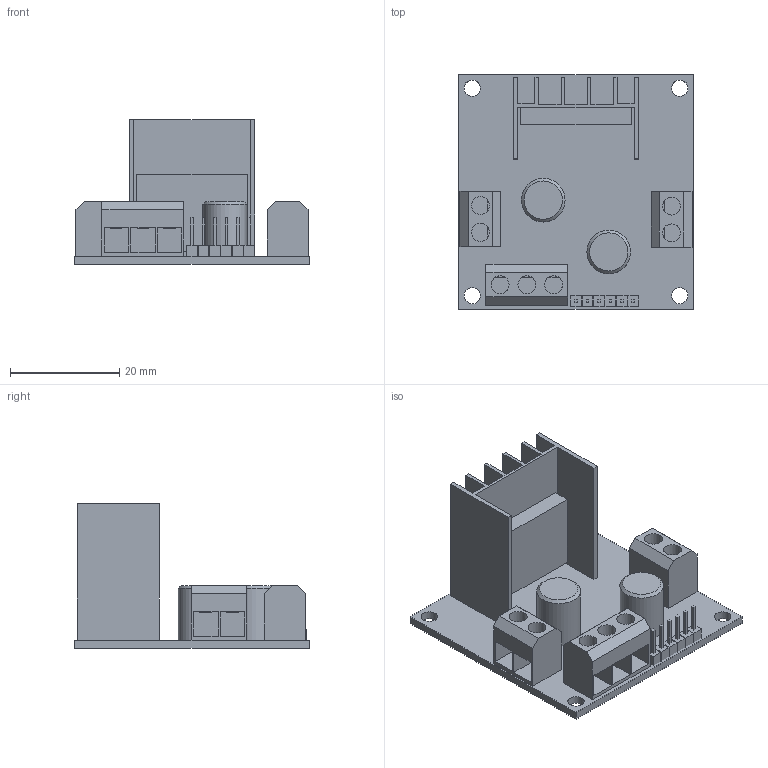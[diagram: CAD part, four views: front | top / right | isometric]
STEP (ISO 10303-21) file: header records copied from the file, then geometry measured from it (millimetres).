
FILE_DESCRIPTION(('FreeCAD Model'),'2;1');
FILE_NAME('Open CASCADE Shape Model','2023-04-10T16:28:59',('Author'),( ''),'Open CASCADE STEP processor 7.5','FreeCAD','Unknown');
FILE_SCHEMA(('AUTOMOTIVE_DESIGN { 1 0 10303 214 1 1 1 1 }'));
Length unit declared in the file: millimetre
Products named in the file (11): HW-095; Body069; Body070; Body071; Body072; Body073; Body074; Body075; PIN008; Array004; Body101
Assembly tree (15 placements, depth 4):
  HW-095
    Body069
    Body070
    Body071
    Body072
    Body073
    Body074
    Body075
    PIN008
      Array004
        Body101  x6
Bounding box: 43 x 43 x 26.5 mm (x, y, z)
Volume: 7496.9 mm3; surface area: 11270.6 mm2
Topology: 13 solids, 13 shells, 192 faces, 475 edges, 316 vertices
Faces by surface type: plane 177, cylinder 13, cone 2
Full cylindrical faces by diameter (mm): 3 x4, 3.28 x7, 8 x2
Entity records: 9183 total; most frequent: CARTESIAN_POINT 1628, DIRECTION 1384, LINE 983, VECTOR 983, ORIENTED_EDGE 710, PCURVE 710, DEFINITIONAL_REPRESENTATION 710, EDGE_CURVE 355
